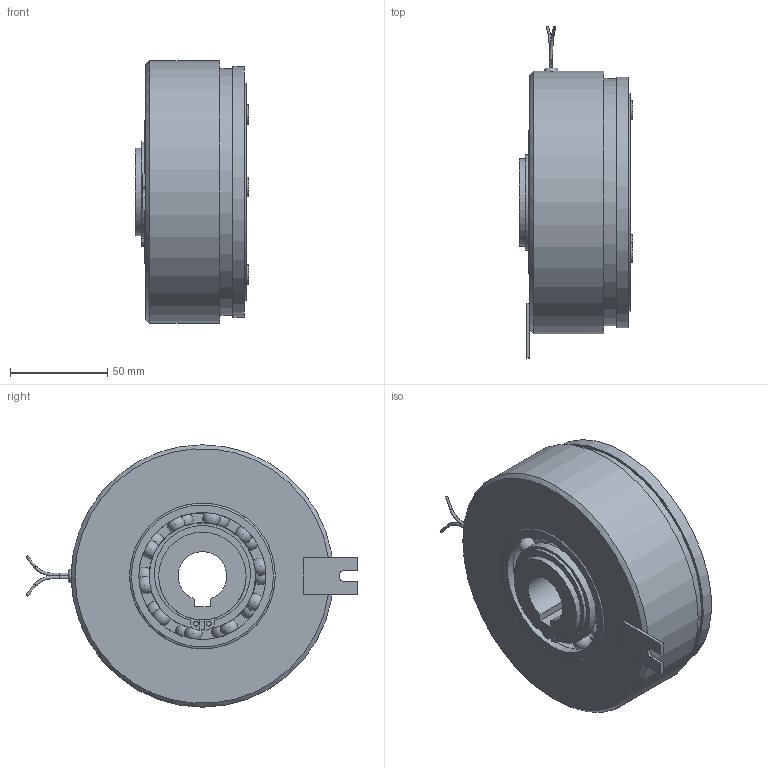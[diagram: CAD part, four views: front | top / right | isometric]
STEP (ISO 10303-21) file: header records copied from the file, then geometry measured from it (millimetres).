
FILE_DESCRIPTION(/* description */ (''),/* implementation_level */ '2;1');
FILE_NAME(/* name */ 'X:\INVENTOR\DISEGNI\08_Freni_Friz_Elettmag_Monodisco\08_25 EMSL\08_25_130_01 EMSL130\08_25_130_01 EMSL130@STEP.stp',/* time_stamp */ '2018-04-04T14:54:58+02:00',/* author */ ('stefano'),/* organization */ (''),/* preprocessor_version */ 'ST-DEVELOPER v17',/* originating_system */ 'Autodesk Inventor 2018',/* authorisation */ '');
FILE_SCHEMA (('AUTOMOTIVE_DESIGN { 1 0 10303 214 3 1 1 }'));
Length unit declared in the file: millimetre
Products named in the file (1): 08_25_130_01 EMSL130_Substitute_1
Bounding box: 58.6 x 170.72 x 135 mm (x, y, z)
Volume: 555417.9 mm3; surface area: 144882.1 mm2
Topology: 3 solids, 3 shells, 268 faces, 858 edges, 583 vertices
Faces by surface type: plane 99, cylinder 90, torus 48, sphere 20, cone 9, bspline 2
Full cylindrical faces by diameter (mm): 1.154 x2, 1.5 x1, 2 x3, 2.5 x2, 3 x2, 6 x1, 6.1 x3, 10 x3, 15 x3, 42.5 x1, 45 x3, 54.6 x4, 55 x1, 65.4 x4, 71 x1, 72 x1, 75 x4, 78 x1, 85 x1, 85.2 x1, 97 x1, 112 x1, 117 x1, 127 x1, 127.2 x1, 129 x1, 135 x1
Entity records: 11959 total; most frequent: CARTESIAN_POINT 3994, DIRECTION 1656, ORIENTED_EDGE 1642, EDGE_CURVE 821, AXIS2_PLACEMENT_3D 741, VERTEX_POINT 584, CIRCLE 474, EDGE_LOOP 366
